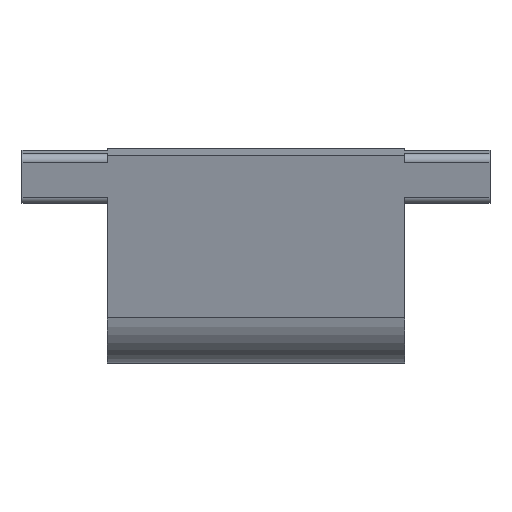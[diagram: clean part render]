
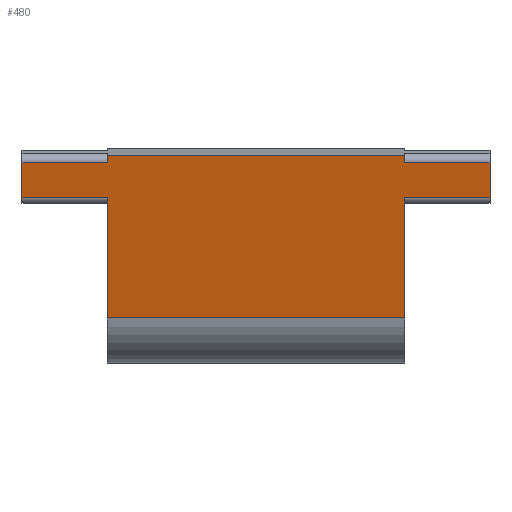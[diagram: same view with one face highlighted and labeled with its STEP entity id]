
A CAD part, front view. The second image highlights one B-rep face of the part: STEP entity #480.
In plain terms, the highlighted planar face has unit normal (0, -0.975, -0.221).
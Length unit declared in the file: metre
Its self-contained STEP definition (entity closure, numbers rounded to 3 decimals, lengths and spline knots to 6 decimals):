
#66=ORIENTED_EDGE('',*,*,#209,.F.);
#67=ORIENTED_EDGE('',*,*,#210,.F.);
#68=ORIENTED_EDGE('',*,*,#211,.T.);
#69=ORIENTED_EDGE('',*,*,#212,.T.);
#70=ORIENTED_EDGE('',*,*,#213,.F.);
#71=ORIENTED_EDGE('',*,*,#195,.T.);
#72=ORIENTED_EDGE('',*,*,#214,.T.);
#73=ORIENTED_EDGE('',*,*,#215,.T.);
#74=ORIENTED_EDGE('',*,*,#216,.F.);
#75=ORIENTED_EDGE('',*,*,#217,.F.);
#76=ORIENTED_EDGE('',*,*,#218,.T.);
#77=ORIENTED_EDGE('',*,*,#219,.F.);
#195=EDGE_CURVE('',#268,#267,#315,.T.);
#209=EDGE_CURVE('',#280,#281,#329,.T.);
#210=EDGE_CURVE('',#282,#280,#330,.T.);
#211=EDGE_CURVE('',#282,#283,#331,.T.);
#212=EDGE_CURVE('',#283,#284,#332,.T.);
#213=EDGE_CURVE('',#268,#284,#333,.T.);
#214=EDGE_CURVE('',#267,#285,#334,.T.);
#215=EDGE_CURVE('',#285,#286,#335,.T.);
#216=EDGE_CURVE('',#287,#286,#336,.T.);
#217=EDGE_CURVE('',#288,#287,#337,.T.);
#218=EDGE_CURVE('',#288,#289,#338,.T.);
#219=EDGE_CURVE('',#281,#289,#339,.T.);
#267=VERTEX_POINT('',#729);
#268=VERTEX_POINT('',#731);
#280=VERTEX_POINT('',#759);
#281=VERTEX_POINT('',#760);
#282=VERTEX_POINT('',#762);
#283=VERTEX_POINT('',#764);
#284=VERTEX_POINT('',#766);
#285=VERTEX_POINT('',#769);
#286=VERTEX_POINT('',#771);
#287=VERTEX_POINT('',#773);
#288=VERTEX_POINT('',#775);
#289=VERTEX_POINT('',#777);
#315=LINE('',#730,#367);
#329=LINE('',#758,#381);
#330=LINE('',#761,#382);
#331=LINE('',#763,#383);
#332=LINE('',#765,#384);
#333=LINE('',#767,#385);
#334=LINE('',#768,#386);
#335=LINE('',#770,#387);
#336=LINE('',#772,#388);
#337=LINE('',#774,#389);
#338=LINE('',#776,#390);
#339=LINE('',#778,#391);
#367=VECTOR('',#576,1.);
#381=VECTOR('',#594,1.);
#382=VECTOR('',#595,1.);
#383=VECTOR('',#596,1.);
#384=VECTOR('',#597,1.);
#385=VECTOR('',#598,1.);
#386=VECTOR('',#599,1.);
#387=VECTOR('',#600,1.);
#388=VECTOR('',#601,1.);
#389=VECTOR('',#602,1.);
#390=VECTOR('',#603,1.);
#391=VECTOR('',#604,1.);
#412=EDGE_LOOP('',(#66,#67,#68,#69,#70,#71,#72,#73,#74,#75,#76,#77));
#438=FACE_BOUND('',#412,.T.);
#464=PLANE('',#519);
#480=ADVANCED_FACE('',(#438),#464,.T.);
#519=AXIS2_PLACEMENT_3D('',#757,#592,#593);
#576=DIRECTION('',(-1.,0.,0.));
#592=DIRECTION('',(0.,-0.975,-0.221));
#593=DIRECTION('',(0.,-0.221,0.975));
#594=DIRECTION('',(0.,0.221,-0.975));
#595=DIRECTION('',(-1.,0.,0.));
#596=DIRECTION('',(0.,-0.221,0.975));
#597=DIRECTION('',(-1.,0.,0.));
#598=DIRECTION('',(0.,0.221,-0.975));
#599=DIRECTION('',(0.,0.221,-0.975));
#600=DIRECTION('',(-1.,0.,0.));
#601=DIRECTION('',(0.,-0.221,0.975));
#602=DIRECTION('',(-1.,0.,0.));
#603=DIRECTION('',(0.,0.221,-0.975));
#604=DIRECTION('',(-1.,0.,0.));
#729=CARTESIAN_POINT('',(-0.059427,0.045266,0.179673));
#730=CARTESIAN_POINT('',(-0.055427,0.045266,0.179673));
#731=CARTESIAN_POINT('',(-0.055427,0.045266,0.179673));
#757=CARTESIAN_POINT('',(-0.057427,0.045467,0.178784));
#758=CARTESIAN_POINT('',(-0.055427,0.045266,0.179673));
#759=CARTESIAN_POINT('',(-0.055427,0.045395,0.179105));
#760=CARTESIAN_POINT('',(-0.055427,0.045761,0.177485));
#761=CARTESIAN_POINT('',(-0.054277,0.045395,0.179105));
#762=CARTESIAN_POINT('',(-0.054277,0.045395,0.179105));
#763=CARTESIAN_POINT('',(-0.054277,0.045395,0.179105));
#764=CARTESIAN_POINT('',(-0.054277,0.045288,0.179575));
#765=CARTESIAN_POINT('',(-0.054277,0.045288,0.179575));
#766=CARTESIAN_POINT('',(-0.055427,0.045288,0.179575));
#767=CARTESIAN_POINT('',(-0.055427,0.045266,0.179673));
#768=CARTESIAN_POINT('',(-0.059427,0.045266,0.179673));
#769=CARTESIAN_POINT('',(-0.059427,0.045288,0.179575));
#770=CARTESIAN_POINT('',(-0.054277,0.045288,0.179575));
#771=CARTESIAN_POINT('',(-0.060577,0.045288,0.179575));
#772=CARTESIAN_POINT('',(-0.060577,0.045395,0.179105));
#773=CARTESIAN_POINT('',(-0.060577,0.045395,0.179105));
#774=CARTESIAN_POINT('',(-0.054277,0.045395,0.179105));
#775=CARTESIAN_POINT('',(-0.059427,0.045395,0.179105));
#776=CARTESIAN_POINT('',(-0.059427,0.045266,0.179673));
#777=CARTESIAN_POINT('',(-0.059427,0.045761,0.177485));
#778=CARTESIAN_POINT('',(-0.055427,0.045761,0.177485));
